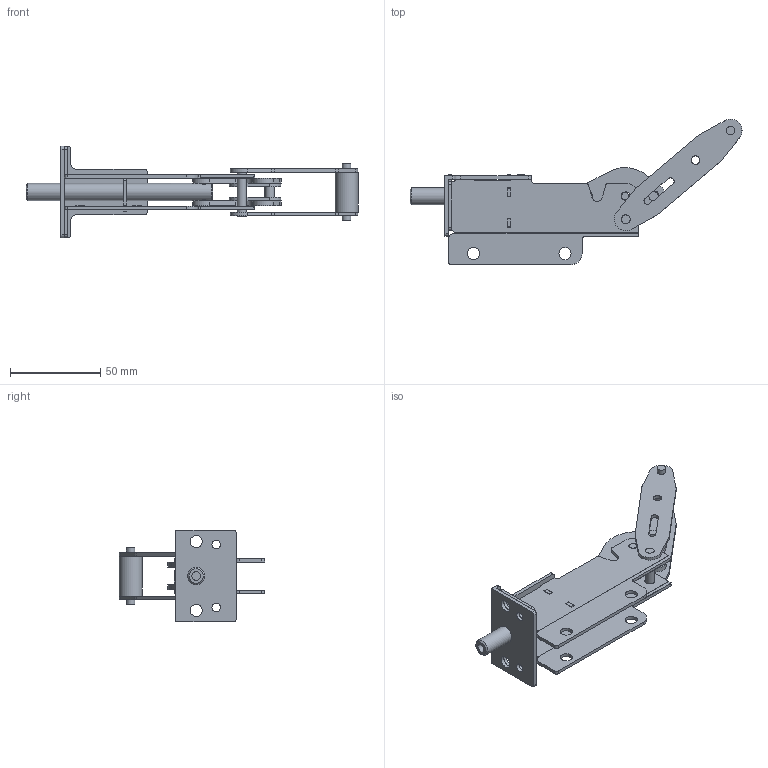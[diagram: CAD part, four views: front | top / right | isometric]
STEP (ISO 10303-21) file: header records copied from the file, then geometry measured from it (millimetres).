
FILE_DESCRIPTION((' '),'2;1');
FILE_NAME('C:\Users\Nick\Desktop\P&P Series\P&PS 800 - IT\3D\P&PS-800-IT Open.stp','2015-07-24T13:34:55',(' '),(' '),' ','ACIS',' ');
FILE_SCHEMA(('CONFIG_CONTROL_DESIGN'));
Length unit declared in the file: inch
Products named in the file (17): C:\Users\Nick\Desktop\P&P Series\P&PS 800 - IT\3D\P&PS-800-IT Open.stp; Body1; Body2; Body3; Body4; Body5; Body6; Body7; Body8; Body9; Body10; Body11; Body12; Body13; Body14; Body15; Body16
Assembly tree (16 placements, depth 2):
  C:\Users\Nick\Desktop\P&P Series\P&PS 800 - IT\3D\P&PS-800-IT Open.stp
    Body1
    Body2
    Body3
    Body4
    Body5
    Body6
    Body7
    Body8
    Body9
    Body10
    Body11
    Body12
    Body13
    Body14
    Body15
    Body16
Bounding box: 184.34 x 80.76 x 50.8 mm (x, y, z)
Volume: 44368.5 mm3; surface area: 45866 mm2
Topology: 18 solids, 18 shells, 331 faces, 878 edges, 585 vertices
Faces by surface type: plane 148, bspline 105, cylinder 76, cone 2
Full cylindrical faces by diameter (mm): 4.324 x1, 4.699 x2, 4.737 x2, 4.763 x1, 4.775 x4, 4.801 x3, 4.86 x1, 4.902 x1, 5.21 x1, 5.563 x6, 6.756 x5, 9.525 x2, 9.576 x1, 12.7 x1
Entity records: 13240 total; most frequent: CARTESIAN_POINT 2713, ORIENTED_EDGE 1656, DIRECTION 1580, EDGE_CURVE 828, VECTOR 590, LINE 590, VERTEX_POINT 580, AXIS2_PLACEMENT_3D 495
